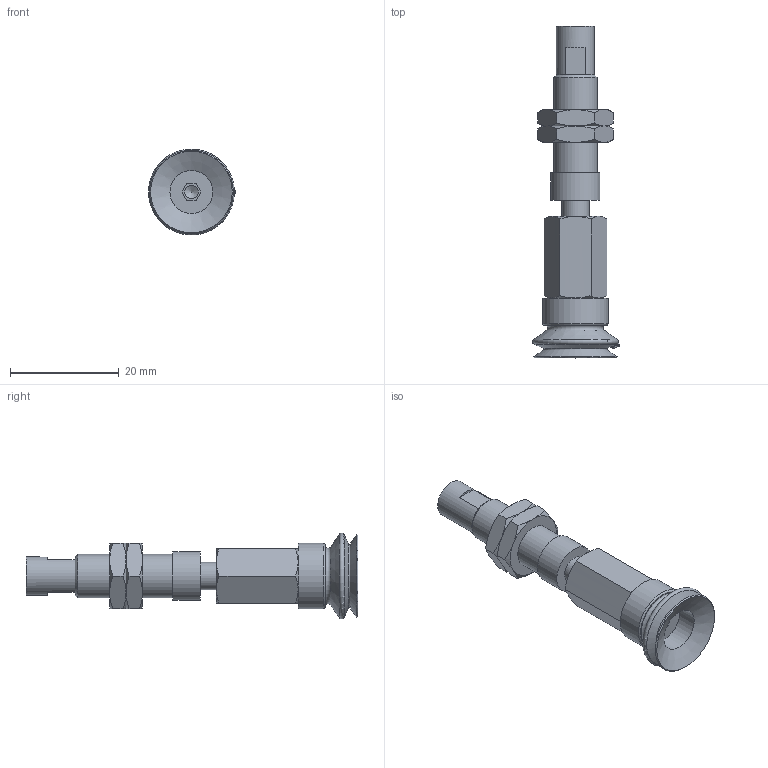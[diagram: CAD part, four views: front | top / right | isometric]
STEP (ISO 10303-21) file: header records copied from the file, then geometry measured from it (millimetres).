
FILE_DESCRIPTION(('STEP AP203'),'1');
FILE_NAME('.stp','2025-08-27T07:33:58',(' '),(' '),'Spatial InterOp 3D',' ',' ');
FILE_SCHEMA(('CONFIG_CONTROL_DESIGN'));
Length unit declared in the file: millimetre
Products named in the file (7): BNABPJTS-15-3-※; ADAPTER; NAPCTS-10-3-MBODY; Adapter-15-NAPJ; NUT-NAPJ-15-3-s; NAPJTS-15-3-FBODY; BPJG-15-※
Assembly tree (7 placements, depth 2):
  BNABPJTS-15-3-※
    ADAPTER
    NAPCTS-10-3-MBODY
    Adapter-15-NAPJ
    NUT-NAPJ-15-3-s  x2
    NAPJTS-15-3-FBODY
    BPJG-15-※
Bounding box: 15.99 x 61 x 15.78 mm (x, y, z)
Volume: 4250.9 mm3; surface area: 4664.3 mm2
Topology: 7 solids, 7 shells, 137 faces, 290 edges, 171 vertices
Faces by surface type: cone 53, plane 50, cylinder 15, torus 9, bspline 6, sphere 4
Full cylindrical faces by diameter (mm): 2.5 x1, 4.134 x2, 4.6 x1, 5 x3, 7 x1, 7.188 x2, 7.9 x1, 8 x2, 9 x1, 12 x1
Entity records: 3606 total; most frequent: CARTESIAN_POINT 1060, DIRECTION 466, ORIENTED_EDGE 394, AXIS2_PLACEMENT_3D 209, EDGE_CURVE 197, EDGE_LOOP 161, FACE_OUTER_BOUND 135, VERTEX_POINT 135
